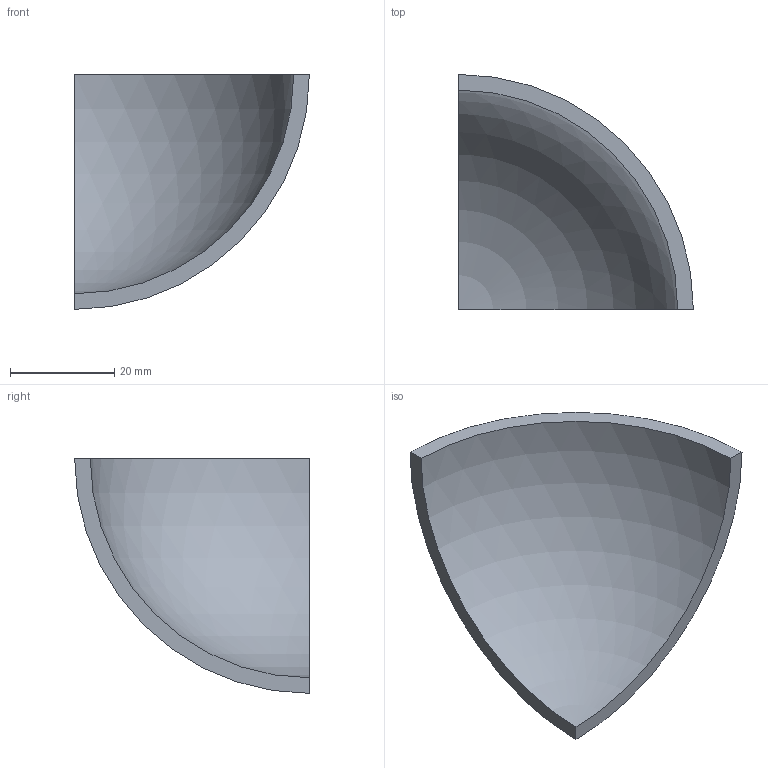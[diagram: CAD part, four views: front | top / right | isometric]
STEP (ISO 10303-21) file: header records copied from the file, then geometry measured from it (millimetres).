
FILE_DESCRIPTION((''),'2;1');
FILE_NAME('GIS045R_2','2002-12-27T',('Lipro doo'),('Lipro d.o.o.'),'PRO/ENGINEER BY PARAMETRIC TECHNOLOGY CORPORATION, 2001150','PRO/ENGINEER BY PARAMETRIC TECHNOLOGY CORPORATION, 2001150','');
FILE_SCHEMA(('CONFIG_CONTROL_DESIGN'));
Length unit declared in the file: millimetre
Products named in the file (1): GIS045R_2
Bounding box: 45 x 45 x 45 mm (x, y, z)
Volume: 8920.6 mm3; surface area: 6566.7 mm2
Topology: 1 solids, 1 shells, 5 faces, 11 edges, 6 vertices
Faces by surface type: plane 3, sphere 2
Entity records: 167 total; most frequent: DIRECTION 25, CARTESIAN_POINT 20, ORIENTED_EDGE 18, AXIS2_PLACEMENT_3D 11, EDGE_CURVE 9, VERTEX_POINT 6, CIRCLE 6, EDGE_LOOP 5
